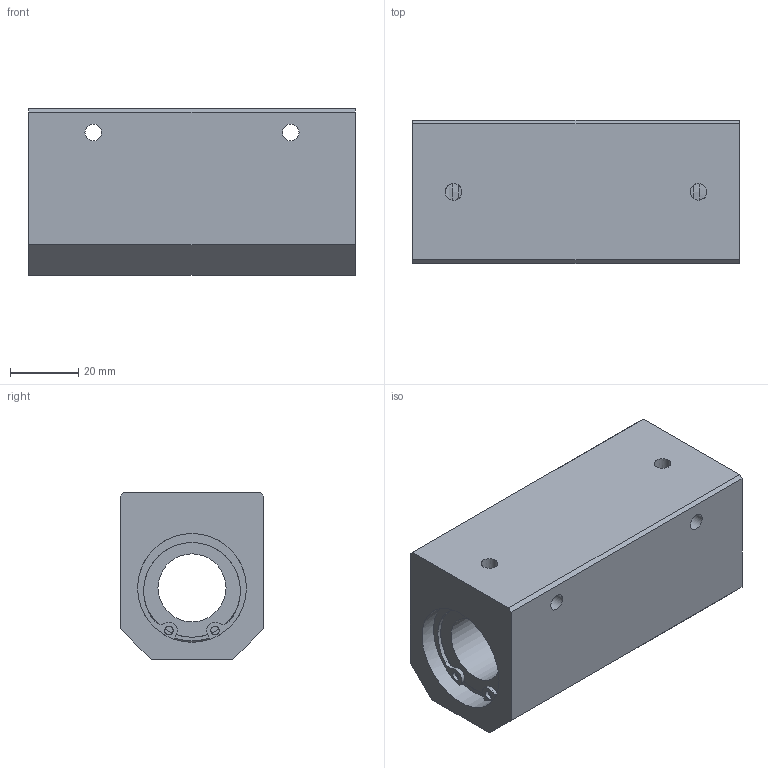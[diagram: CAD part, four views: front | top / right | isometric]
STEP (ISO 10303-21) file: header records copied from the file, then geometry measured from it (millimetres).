
FILE_DESCRIPTION((''),'2;1');
FILE_NAME('D:\製品 (図面)\カタログ用3D\リニアベアリング関連(改)\STEP形式\CHW\CHW20.stp','2010-01-25T09:40:52',('Tsuchiya'),(''),'Autodesk Inventor 10','Autodesk Inventor 10','');
FILE_SCHEMA(('AUTOMOTIVE_DESIGN { 1 0 10303 214 1 1 1 1 }'));
Length unit declared in the file: millimetre
Products named in the file (1): CHW20
Bounding box: 96 x 42 x 49 mm (x, y, z)
Volume: 150460.3 mm3; surface area: 31644.3 mm2
Topology: 1 solids, 4 shells, 92 faces, 225 edges, 139 vertices
Faces by surface type: bspline 41, plane 28, cylinder 21, torus 2
Full cylindrical faces by diameter (mm): 2.5 x2, 20 x1, 29 x2, 30.3 x2, 32 x5
Entity records: 2951 total; most frequent: CARTESIAN_POINT 1013, DIRECTION 386, ORIENTED_EDGE 358, EDGE_CURVE 179, AXIS2_PLACEMENT_3D 165, EDGE_LOOP 148, VERTEX_POINT 123, CIRCLE 113
